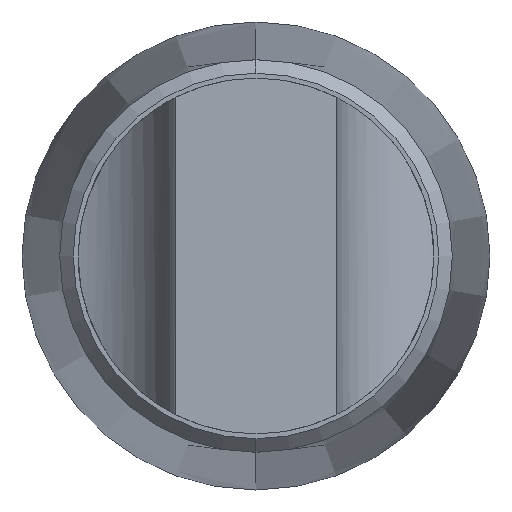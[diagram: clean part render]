
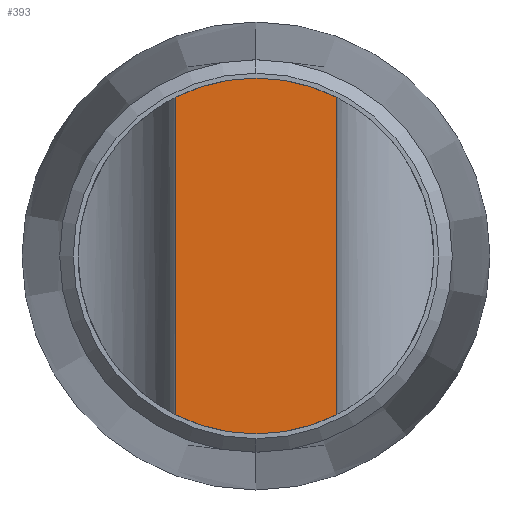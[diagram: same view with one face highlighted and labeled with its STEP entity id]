
A CAD part, left-side view. The second image highlights one B-rep face of the part: STEP entity #393.
In plain terms, the highlighted planar face has unit normal (-1, 0, 0).
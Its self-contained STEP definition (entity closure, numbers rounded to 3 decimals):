
#2 = VERTEX_POINT ( 'NONE', #217 ) ;
#94 = VERTEX_POINT ( 'NONE', #335 ) ;
#130 = EDGE_CURVE ( 'NONE', #2, #131, #466, .T. ) ;
#131 = VERTEX_POINT ( 'NONE', #444 ) ;
#150 = EDGE_LOOP ( 'NONE', ( #394, #180, #181, #202, #201 ) ) ;
#154 = EDGE_CURVE ( 'NONE', #131, #94, #591, .T. ) ;
#180 = ORIENTED_EDGE ( 'NONE', *, *, #357, .F. ) ;
#181 = ORIENTED_EDGE ( 'NONE', *, *, #182, .F. ) ;
#182 = EDGE_CURVE ( 'NONE', #94, #358, #651, .T. ) ;
#195 = EDGE_CURVE ( 'NONE', #351, #2, #636, .T. ) ;
#201 = ORIENTED_EDGE ( 'NONE', *, *, #130, .F. ) ;
#202 = ORIENTED_EDGE ( 'NONE', *, *, #154, .F. ) ;
#217 = CARTESIAN_POINT ( 'NONE',  ( -75., 0., 6.75 ) ) ;
#335 = CARTESIAN_POINT ( 'NONE',  ( -75., -3.05, -6.022 ) ) ;
#351 = VERTEX_POINT ( 'NONE', #720 ) ;
#357 = EDGE_CURVE ( 'NONE', #358, #351, #714, .T. ) ;
#358 = VERTEX_POINT ( 'NONE', #753 ) ;
#393 = ADVANCED_FACE ( 'NONE', ( #721 ), #486, .F. ) ;
#394 = ORIENTED_EDGE ( 'NONE', *, *, #195, .F. ) ;
#444 = CARTESIAN_POINT ( 'NONE',  ( -75., -3.05, 6.022 ) ) ;
#445 = DIRECTION ( 'NONE',  ( 0., 0., 1. ) ) ;
#446 = DIRECTION ( 'NONE',  ( 1., 0., 0. ) ) ;
#465 = AXIS2_PLACEMENT_3D ( 'NONE', #472, #446, #445 ) ;
#466 = CIRCLE ( 'NONE', #465, 6.75 ) ;
#472 = CARTESIAN_POINT ( 'NONE',  ( -75., 0., 0. ) ) ;
#484 = CARTESIAN_POINT ( 'NONE',  ( -75., 0., 0. ) ) ;
#485 = DIRECTION ( 'NONE',  ( 1., 0., 0. ) ) ;
#486 = PLANE ( 'NONE',  #487 ) ;
#487 = AXIS2_PLACEMENT_3D ( 'NONE', #484, #485, #488 ) ;
#488 = DIRECTION ( 'NONE',  ( 0., 0., -1. ) ) ;
#588 = DIRECTION ( 'NONE',  ( 0., 0., -1. ) ) ;
#589 = VECTOR ( 'NONE', #588, 1000. ) ;
#590 = CARTESIAN_POINT ( 'NONE',  ( -75., -3.05, 0. ) ) ;
#591 = LINE ( 'NONE', #590, #589 ) ;
#595 = CARTESIAN_POINT ( 'NONE',  ( -75., 0., 0. ) ) ;
#632 = DIRECTION ( 'NONE',  ( 0., 0., 1. ) ) ;
#633 = DIRECTION ( 'NONE',  ( 1., 0., 0. ) ) ;
#634 = CARTESIAN_POINT ( 'NONE',  ( -75., 0., 0. ) ) ;
#635 = AXIS2_PLACEMENT_3D ( 'NONE', #634, #633, #632 ) ;
#636 = CIRCLE ( 'NONE', #635, 6.75 ) ;
#648 = DIRECTION ( 'NONE',  ( 0., 0., 1. ) ) ;
#649 = DIRECTION ( 'NONE',  ( 1., 0., 0. ) ) ;
#650 = AXIS2_PLACEMENT_3D ( 'NONE', #595, #649, #648 ) ;
#651 = CIRCLE ( 'NONE', #650, 6.75 ) ;
#714 = LINE ( 'NONE', #756, #755 ) ;
#720 = CARTESIAN_POINT ( 'NONE',  ( -75., 3.05, 6.022 ) ) ;
#721 = FACE_OUTER_BOUND ( 'NONE', #150, .T. ) ;
#753 = CARTESIAN_POINT ( 'NONE',  ( -75., 3.05, -6.022 ) ) ;
#754 = DIRECTION ( 'NONE',  ( 0., 0., 1. ) ) ;
#755 = VECTOR ( 'NONE', #754, 1000. ) ;
#756 = CARTESIAN_POINT ( 'NONE',  ( -75., 3.05, 0. ) ) ;
